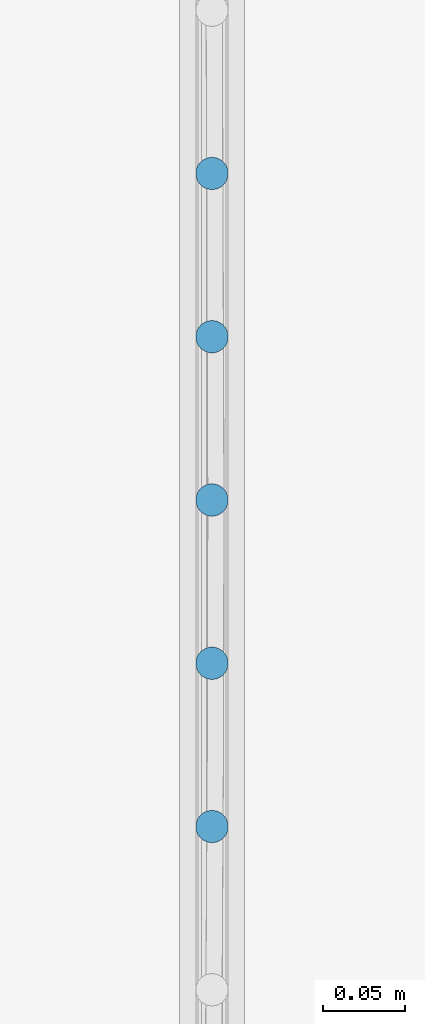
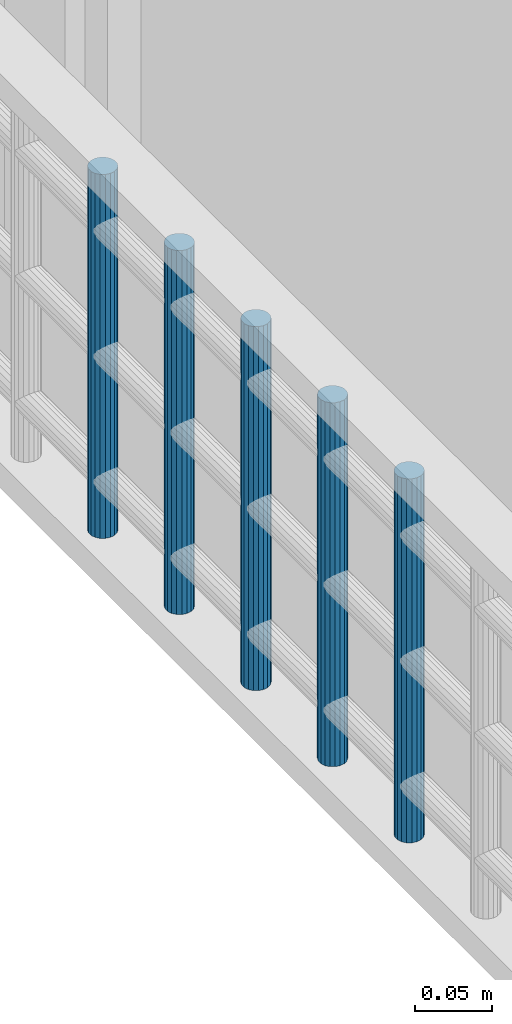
# One storey, part 49 of 133: 5 members, 1 element without a shape of its own.
"""IFC2X3 building model written with IfcOpenShell, lengths in centimetres."""

from ifc_helpers import new_model, entity, si_unit, converted_unit, direction, frame, origin, origin_with_axes, place, context, subcontext, project, spatial, faceted_brep, material, type_object, element, aggregate, save


model = new_model("IFC2X3")

# Units and contexts
model_context = context("Model", 3, precision=0.0001, world=origin(), true_north=direction((0.225632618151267, 0.974212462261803, 0.0)))
body_context = subcontext(model_context, "Body", "Model", "MODEL_VIEW")
ifc_project = project(units=[si_unit("LENGTHUNIT", "METRE", prefix="CENTI"), si_unit("AREAUNIT", "SQUARE_METRE", prefix="CENTI"), si_unit("VOLUMEUNIT", "CUBIC_METRE", prefix="CENTI"), converted_unit("PLANEANGLEUNIT", "DEGREE", entity("IfcRatioMeasure", 0.0174532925), si_unit("PLANEANGLEUNIT", "RADIAN"), dimensions=[0, 0, 0, 0, 0, 0, 0])], contexts=[model_context])

# Site, building, storey
site_placement = place(None, origin_with_axes())
site = spatial("IfcSite", under=ifc_project, at=site_placement, Name="Default Site", CompositionType="ELEMENT")
building_placement = place(site_placement, origin_with_axes())
building = spatial("IfcBuilding", under=site, at=building_placement, Name="Default Building", CompositionType="ELEMENT")
storey_placement = place(building_placement, frame((0.0, 0.0, -291.400371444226), z_axis=(0.0, 0.0, 1.0), x_axis=(1.0, 0.0, 0.0)))
storey = spatial("IfcBuildingStorey", under=building, at=storey_placement, Name="Rez-de-Jardin", CompositionType="ELEMENT", Elevation=-291.400371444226)

# Assembly, members
building_element_proxy_type = type_object("IfcBuildingElementProxyType", Name="Type Object", PredefinedType="NOTDEFINED")
assembly_placement = place(storey_placement, frame((1053.90827276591, -19.9208693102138, 18.0), z_axis=(0.0, 0.0, 1.0), x_axis=(-1.22124532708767e-15, -1.0, 0.0)))
assembly = element("IfcElementAssembly", 1, at=assembly_placement, inside=storey, type_object=building_element_proxy_type, Name="Panneau 73504", ObjectType="Precast panel", PredefinedType="USERDEFINED")
ifc_material = material(Name="Beige")
member_1_placement = place(assembly_placement, frame((55.9396922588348, 0.3420201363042, 31.0000002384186), z_axis=(0.0, 0.0, 1.0), x_axis=(0.499995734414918, -0.866027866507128, 0.0)))
member_1 = element("IfcMember", 2, at=member_1_placement, material=ifc_material, Name="4294966786", context=body_context, shape_type="Brep", body=[
    faceted_brep([(8.32667268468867e-14, -2.77555756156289e-14, 4.44089209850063e-14), (-0.347295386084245, -2.77555756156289e-14, 4.44089209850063e-14), (-0.673647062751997, -0.118784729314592, 4.44089209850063e-14), (-0.93969117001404, -0.342025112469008, 4.44089209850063e-14), (-1.11333888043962, -0.642795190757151, 4.44089209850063e-14), (-1.17364232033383, -0.984811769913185, 4.44089209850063e-14), (-1.11333370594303, -1.32683238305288, 4.44089209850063e-14), (-0.939683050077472, -1.62759729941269, 4.44089209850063e-14), (-0.673637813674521, -1.85083429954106, 4.44089209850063e-14), (-0.347285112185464, -1.9696145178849, 4.44089209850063e-14), (1.02738988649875e-05, -1.9696145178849, 4.44089209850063e-14), (0.326361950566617, -1.85082978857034, 4.44089209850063e-14), (0.592403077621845, -1.62759456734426, 4.44089209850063e-14), (0.766050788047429, -1.32682448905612, 4.44089209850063e-14), (0.826357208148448, -0.984802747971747, 4.44089209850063e-14), (0.766048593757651, -0.642782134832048, 4.44089209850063e-14), (0.592397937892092, -0.34201721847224, 4.44089209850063e-14), (0.326352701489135, -0.118780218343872, 4.44089209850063e-14), (0.326352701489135, -0.118780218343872, -29.000000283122), (0.592397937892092, -0.34201721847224, -29.000000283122), (0.766048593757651, -0.642782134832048, -29.000000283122), (0.826357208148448, -0.984802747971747, -29.000000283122), (0.766050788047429, -1.32682448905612, -29.000000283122), (0.592403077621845, -1.62759456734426, -29.000000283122), (0.326361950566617, -1.85082978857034, -29.000000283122), (1.02738988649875e-05, -1.9696145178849, -29.000000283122), (-0.347285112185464, -1.9696145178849, -29.000000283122), (-0.673637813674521, -1.85083429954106, -29.000000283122), (-0.939683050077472, -1.62759729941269, -29.000000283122), (-1.11333370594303, -1.32683238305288, -29.000000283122), (-1.17364232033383, -0.984811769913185, -29.000000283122), (-1.11333888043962, -0.642795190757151, -29.000000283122), (-0.93969117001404, -0.342025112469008, -29.000000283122), (-0.673647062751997, -0.118784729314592, -29.000000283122), (-0.347295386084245, -2.77555756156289e-14, -29.000000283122), (8.32667268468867e-14, -2.77555756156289e-14, -29.000000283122), (0.592398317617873, -0.342016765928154, 4.44089209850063e-14), (0.592398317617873, -0.342016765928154, -29.000000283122), (0.766047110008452, -0.642782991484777, 4.44089209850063e-14), (0.766047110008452, -0.642782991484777, -29.000000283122), (0.826357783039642, -0.984802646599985, 4.44089209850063e-14), (0.826357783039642, -0.984802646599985, -29.000000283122), (0.766051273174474, -1.32682457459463, 4.44089209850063e-14), (0.766051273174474, -1.32682457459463, -29.000000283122), (0.592403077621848, -1.62759456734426, 4.44089209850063e-14), (0.592403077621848, -1.62759456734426, -29.000000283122), (0.326362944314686, -1.85083097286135, 4.44089209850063e-14), (0.326362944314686, -1.85083097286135, -29.000000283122), (1.00742383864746e-05, -1.96961396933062, 4.44089209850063e-14), (1.00742383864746e-05, -1.96961396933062, -29.000000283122), (-0.347285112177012, -1.96961623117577, 4.44089209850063e-14), (-0.347285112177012, -1.96961623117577, -29.000000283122), (-0.673637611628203, -1.85083374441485, 4.44089209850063e-14), (-0.673637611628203, -1.85083374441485, -29.000000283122), (-0.939683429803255, -1.62759775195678, 4.44089209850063e-14), (-0.939683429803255, -1.62759775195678, -29.000000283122), (-1.11333222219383, -1.32683152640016, 4.44089209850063e-14), (-1.11333222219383, -1.32683152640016, -29.000000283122), (-1.17364289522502, -0.984811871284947, 4.44089209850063e-14), (-1.17364289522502, -0.984811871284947, -29.000000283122), (-1.11333735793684, -0.642795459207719, 4.44089209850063e-14), (-1.11333735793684, -0.642795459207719, -29.000000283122), (-0.939691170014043, -0.342025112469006, 4.44089209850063e-14), (-0.939691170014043, -0.342025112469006, -29.000000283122), (-0.673646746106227, -0.11878510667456, 4.44089209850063e-14), (-0.673646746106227, -0.11878510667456, -29.000000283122), (-0.347295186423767, -5.48554316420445e-07, 4.44089209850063e-14), (-0.347295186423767, -5.48554316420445e-07, -29.000000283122), (-8.36880521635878e-12, 1.71329083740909e-06, 4.44089209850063e-14), (-8.36880521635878e-12, 1.71329083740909e-06, -29.000000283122), (0.326352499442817, -0.118780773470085, 4.44089209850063e-14), (0.326352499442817, -0.118780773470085, -29.000000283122)], [[[0, 1, 2, 3, 4, 5, 6, 7, 8, 9, 10, 11, 12, 13, 14, 15, 16, 17]], [[18, 19, 20, 21, 22, 23, 24, 25, 26, 27, 28, 29, 30, 31, 32, 33, 34, 35]], [[17, 36, 37, 18]], [[16, 38, 39, 19]], [[15, 40, 41, 20]], [[14, 42, 43, 21]], [[13, 44, 45, 22]], [[12, 46, 47, 23]], [[11, 48, 49, 24]], [[10, 50, 51, 25]], [[9, 52, 53, 26]], [[8, 54, 55, 27]], [[7, 56, 57, 28]], [[6, 58, 59, 29]], [[5, 60, 61, 30]], [[4, 62, 63, 31]], [[3, 64, 65, 32]], [[2, 66, 67, 33]], [[1, 68, 69, 34]], [[0, 70, 71, 35]]]),
])
member_2_placement = place(assembly_placement, frame((65.9396946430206, 0.3420201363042, 31.0000002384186), z_axis=(0.0, 0.0, 1.0), x_axis=(0.500008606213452, -0.866020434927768, 0.0)))
member_2 = element("IfcMember", 3, at=member_2_placement, material=ifc_material, Name="4294966785", context=body_context, shape_type="Brep", body=[
    faceted_brep([(2.72004641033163e-13, -8.88178419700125e-14, 3.88578058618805e-14), (-0.347298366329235, -8.88178419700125e-14, 3.88578058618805e-14), (-0.673651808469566, -0.118779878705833, 3.88578058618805e-14), (-0.939696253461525, -0.342011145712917, 3.88578058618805e-14), (-1.11334843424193, -0.642778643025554, 3.88578058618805e-14), (-1.17365993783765, -0.984799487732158, 3.88578058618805e-14), (-1.1133564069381, -1.32682099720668, 3.88578058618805e-14), (-0.939710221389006, -1.62758849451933, 3.88578058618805e-14), (-0.673668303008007, -1.85082944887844, 3.88578058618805e-14), (-0.347317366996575, -1.96961451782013, 3.88578058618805e-14), (-2.1980950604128e-05, -1.96961967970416, 3.88578058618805e-14), (0.326331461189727, -1.85083980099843, 3.88578058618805e-14), (0.592378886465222, -1.6276033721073, 3.88578058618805e-14), (0.766031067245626, -1.32683587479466, 3.88578058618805e-14), (0.826339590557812, -0.984820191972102, 3.88578058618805e-14), (0.766036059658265, -0.64279868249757, 3.88578058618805e-14), (0.592392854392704, -0.34202602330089, 3.88578058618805e-14), (0.326350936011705, -0.118785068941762, 3.88578058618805e-14), (0.326350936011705, -0.118785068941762, -29.000000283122), (0.592392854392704, -0.34202602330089, -29.000000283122), (0.766036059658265, -0.64279868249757, -29.000000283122), (0.826339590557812, -0.984820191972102, -29.000000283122), (0.766031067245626, -1.32683587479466, -29.000000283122), (0.592378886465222, -1.6276033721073, -29.000000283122), (0.326331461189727, -1.85083980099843, -29.000000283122), (-2.1980950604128e-05, -1.96961967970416, -29.000000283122), (-0.347317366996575, -1.96961451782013, -29.000000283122), (-0.673668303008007, -1.85082944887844, -29.000000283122), (-0.939710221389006, -1.62758849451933, -29.000000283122), (-1.1133564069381, -1.32682099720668, -29.000000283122), (-1.17365993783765, -0.984799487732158, -29.000000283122), (-1.11334843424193, -0.642778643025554, -29.000000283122), (-0.939696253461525, -0.342011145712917, -29.000000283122), (-0.673651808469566, -0.118779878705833, -29.000000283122), (-0.347298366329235, -8.88178419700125e-14, -29.000000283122), (2.72004641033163e-13, -8.88178419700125e-14, -29.000000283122), (0.592393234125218, -0.34202557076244, 3.88578058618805e-14), (0.592393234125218, -0.34202557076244, -29.000000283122), (0.766039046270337, -0.64279695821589, 3.88578058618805e-14), (0.766039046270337, -0.64279695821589, -29.000000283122), (0.826340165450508, -0.984820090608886, 3.88578058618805e-14), (0.826340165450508, -0.984820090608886, -29.000000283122), (0.766029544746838, -1.32683560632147, 3.88578058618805e-14), (0.766029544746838, -1.32683560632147, -29.000000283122), (0.592378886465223, -1.6276033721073, 3.88578058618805e-14), (0.592378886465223, -1.6276033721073, -29.000000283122), (0.326331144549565, -1.85083942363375, 3.88578058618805e-14), (0.326331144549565, -1.85083942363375, -29.000000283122), (-2.21806029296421e-05, -1.9696191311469, 3.88578058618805e-14), (-2.21806029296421e-05, -1.9696191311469, -29.000000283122), (-0.347317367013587, -1.96961623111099, 3.88578058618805e-14), (-0.347317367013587, -1.96961623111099, -29.000000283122), (-0.673668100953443, -1.85082889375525, 3.88578058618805e-14), (-0.673668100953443, -1.85082889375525, -29.000000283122), (-0.939710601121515, -1.62758894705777, 3.88578058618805e-14), (-0.939710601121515, -1.62758894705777, -29.000000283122), (-1.11335492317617, -1.326820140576, 3.88578058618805e-14), (-1.11335492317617, -1.326820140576, -29.000000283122), (-1.17366051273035, -0.984799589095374, 3.88578058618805e-14), (-1.17366051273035, -0.984799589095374, -29.000000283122), (-1.11334891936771, -0.642778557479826, 3.88578058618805e-14), (-1.11334891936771, -0.642778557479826, -29.000000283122), (-0.939696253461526, -0.342011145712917, 3.88578058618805e-14), (-0.939696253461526, -0.342011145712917, -29.000000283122), (-0.673652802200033, -0.11877869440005, 3.88578058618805e-14), (-0.673652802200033, -0.11877869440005, -29.000000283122), (-0.347298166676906, -5.48557355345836e-07, 3.88578058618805e-14), (-0.347298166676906, -5.48557355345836e-07, -29.000000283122), (-3.39723228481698e-11, -3.44862285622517e-06, 3.88578058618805e-14), (-3.39723228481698e-11, -3.44862285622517e-06, -29.000000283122), (0.326350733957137, -0.118785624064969, 3.88578058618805e-14), (0.326350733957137, -0.118785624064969, -29.000000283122)], [[[0, 1, 2, 3, 4, 5, 6, 7, 8, 9, 10, 11, 12, 13, 14, 15, 16, 17]], [[18, 19, 20, 21, 22, 23, 24, 25, 26, 27, 28, 29, 30, 31, 32, 33, 34, 35]], [[17, 36, 37, 18]], [[16, 38, 39, 19]], [[15, 40, 41, 20]], [[14, 42, 43, 21]], [[13, 44, 45, 22]], [[12, 46, 47, 23]], [[11, 48, 49, 24]], [[10, 50, 51, 25]], [[9, 52, 53, 26]], [[8, 54, 55, 27]], [[7, 56, 57, 28]], [[6, 58, 59, 29]], [[5, 60, 61, 30]], [[4, 62, 63, 31]], [[3, 64, 65, 32]], [[2, 66, 67, 33]], [[1, 68, 69, 34]], [[0, 70, 71, 35]]]),
])
member_3_placement = place(assembly_placement, frame((75.9396910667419, 0.3420201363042, 31.0000002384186), z_axis=(0.0, 0.0, 1.0), x_axis=(0.499995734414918, -0.866027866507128, 0.0)))
member_3 = element("IfcMember", 4, at=member_3_placement, material=ifc_material, Name="4294966784", context=body_context, shape_type="Brep", body=[
    faceted_brep([(7.7715611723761e-14, 6.66133814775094e-14, 4.44089209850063e-14), (-0.347295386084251, 5.55111512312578e-14, 4.44089209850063e-14), (-0.673647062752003, -0.118784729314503, 4.44089209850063e-14), (-0.939691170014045, -0.342025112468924, 4.44089209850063e-14), (-1.11333590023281, -0.642790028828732, 4.44089209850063e-14), (-1.17364232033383, -0.984811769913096, 4.44089209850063e-14), (-1.11333370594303, -1.3268323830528, 4.44089209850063e-14), (-0.939683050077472, -1.6275972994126, 4.44089209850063e-14), (-0.673637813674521, -1.85083429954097, 4.44089209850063e-14), (-0.347285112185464, -1.96961451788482, 4.44089209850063e-14), (1.02738988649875e-05, -1.96961451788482, 4.44089209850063e-14), (0.326361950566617, -1.85082978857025, 4.44089209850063e-14), (0.592406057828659, -1.62758940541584, 4.44089209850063e-14), (0.766050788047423, -1.32682448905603, 4.44089209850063e-14), (0.826357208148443, -0.984802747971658, 4.44089209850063e-14), (0.766048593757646, -0.642782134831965, 4.44089209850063e-14), (0.592397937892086, -0.342017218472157, 4.44089209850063e-14), (0.326352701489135, -0.118780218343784, 4.44089209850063e-14), (0.326352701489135, -0.118780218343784, -29.000000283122), (0.592397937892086, -0.342017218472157, -29.000000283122), (0.766048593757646, -0.642782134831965, -29.000000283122), (0.826357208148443, -0.984802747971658, -29.000000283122), (0.766050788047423, -1.32682448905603, -29.000000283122), (0.592406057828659, -1.62758940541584, -29.000000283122), (0.326361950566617, -1.85082978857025, -29.000000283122), (1.02738988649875e-05, -1.96961451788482, -29.000000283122), (-0.347285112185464, -1.96961451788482, -29.000000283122), (-0.673637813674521, -1.85083429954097, -29.000000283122), (-0.939683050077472, -1.6275972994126, -29.000000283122), (-1.11333370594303, -1.3268323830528, -29.000000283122), (-1.17364232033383, -0.984811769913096, -29.000000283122), (-1.11333590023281, -0.642790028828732, -29.000000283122), (-0.939691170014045, -0.342025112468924, -29.000000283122), (-0.673647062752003, -0.118784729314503, -29.000000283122), (-0.347295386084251, 5.55111512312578e-14, -29.000000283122), (7.7715611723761e-14, 6.66133814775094e-14, -29.000000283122), (0.592398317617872, -0.342016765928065, 4.44089209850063e-14), (0.592398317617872, -0.342016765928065, -29.000000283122), (0.766047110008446, -0.642782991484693, 4.44089209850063e-14), (0.766047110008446, -0.642782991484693, -29.000000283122), (0.826357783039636, -0.984802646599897, 4.44089209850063e-14), (0.826357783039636, -0.984802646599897, -29.000000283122), (0.766051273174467, -1.32682457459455, 4.44089209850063e-14), (0.766051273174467, -1.32682457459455, -29.000000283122), (0.592406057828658, -1.62758940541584, 4.44089209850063e-14), (0.592406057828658, -1.62758940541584, -29.000000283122), (0.32636163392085, -1.85082941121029, 4.44089209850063e-14), (0.32636163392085, -1.85082941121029, -29.000000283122), (1.00742383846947e-05, -1.96961396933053, 4.44089209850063e-14), (1.00742383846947e-05, -1.96961396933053, -29.000000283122), (-0.347285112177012, -1.96961623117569, 4.44089209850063e-14), (-0.347285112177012, -1.96961623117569, -29.000000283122), (-0.673637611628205, -1.85083374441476, 4.44089209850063e-14), (-0.673637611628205, -1.85083374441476, -29.000000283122), (-0.939683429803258, -1.62759775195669, 4.44089209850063e-14), (-0.939683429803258, -1.62759775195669, -29.000000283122), (-1.11333222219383, -1.32683152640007, 4.44089209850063e-14), (-1.11333222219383, -1.32683152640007, -29.000000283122), (-1.17364289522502, -0.984811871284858, 4.44089209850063e-14), (-1.17364289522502, -0.984811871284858, -29.000000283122), (-1.11333638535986, -0.642789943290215, 4.44089209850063e-14), (-1.11333638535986, -0.642789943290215, -29.000000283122), (-0.939691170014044, -0.342025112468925, 4.44089209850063e-14), (-0.939691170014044, -0.342025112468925, -29.000000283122), (-0.67364674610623, -0.118785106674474, 4.44089209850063e-14), (-0.67364674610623, -0.118785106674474, -29.000000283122), (-0.347295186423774, -5.48554228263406e-07, 4.44089209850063e-14), (-0.347295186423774, -5.48554228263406e-07, -29.000000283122), (-8.37435627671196e-12, 1.71329092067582e-06, 4.44089209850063e-14), (-8.37435627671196e-12, 1.71329092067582e-06, -29.000000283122), (0.326352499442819, -0.118780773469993, 4.44089209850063e-14), (0.326352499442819, -0.118780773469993, -29.000000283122)], [[[0, 1, 2, 3, 4, 5, 6, 7, 8, 9, 10, 11, 12, 13, 14, 15, 16, 17]], [[18, 19, 20, 21, 22, 23, 24, 25, 26, 27, 28, 29, 30, 31, 32, 33, 34, 35]], [[17, 36, 37, 18]], [[16, 38, 39, 19]], [[15, 40, 41, 20]], [[14, 42, 43, 21]], [[13, 44, 45, 22]], [[12, 46, 47, 23]], [[11, 48, 49, 24]], [[10, 50, 51, 25]], [[9, 52, 53, 26]], [[8, 54, 55, 27]], [[7, 56, 57, 28]], [[6, 58, 59, 29]], [[5, 60, 61, 30]], [[4, 62, 63, 31]], [[3, 64, 65, 32]], [[2, 66, 67, 33]], [[1, 68, 69, 34]], [[0, 70, 71, 35]]]),
])
member_4_placement = place(assembly_placement, frame((85.9396934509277, 0.3420201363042, 31.0000002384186), z_axis=(0.0, 0.0, 1.0), x_axis=(0.499995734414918, -0.866027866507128, 0.0)))
member_4 = element("IfcMember", 5, at=member_4_placement, material=ifc_material, Name="4294966783", context=body_context, shape_type="Brep", body=[
    faceted_brep([(-2.22044604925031e-14, 1.22124532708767e-13, 4.44089209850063e-14), (-0.347295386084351, 1.11022302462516e-13, 4.44089209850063e-14), (-0.673647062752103, -0.118784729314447, 4.44089209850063e-14), (-0.939691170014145, -0.342025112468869, 4.44089209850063e-14), (-1.11333888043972, -0.642795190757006, 4.44089209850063e-14), (-1.17364232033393, -0.984811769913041, 4.44089209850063e-14), (-1.11333370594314, -1.32683238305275, 4.44089209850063e-14), (-0.939686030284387, -1.62760246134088, 4.44089209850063e-14), (-0.673640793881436, -1.85083946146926, 4.44089209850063e-14), (-0.347288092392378, -1.96961967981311, 4.44089209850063e-14), (1.02738987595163e-05, -1.96961451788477, 4.44089209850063e-14), (0.326361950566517, -1.8508297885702, 4.44089209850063e-14), (0.592403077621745, -1.62759456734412, 4.44089209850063e-14), (0.766050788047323, -1.32682448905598, 4.44089209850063e-14), (0.826357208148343, -0.984802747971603, 4.44089209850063e-14), (0.766048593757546, -0.64278213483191, 4.44089209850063e-14), (0.592397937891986, -0.342017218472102, 4.44089209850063e-14), (0.326352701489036, -0.118780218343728, 4.44089209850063e-14), (0.326352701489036, -0.118780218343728, -29.000000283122), (0.592397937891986, -0.342017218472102, -29.000000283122), (0.766048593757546, -0.64278213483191, -29.000000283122), (0.826357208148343, -0.984802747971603, -29.000000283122), (0.766050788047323, -1.32682448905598, -29.000000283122), (0.592403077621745, -1.62759456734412, -29.000000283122), (0.326361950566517, -1.8508297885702, -29.000000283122), (1.02738987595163e-05, -1.96961451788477, -29.000000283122), (-0.347288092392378, -1.96961967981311, -29.000000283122), (-0.673640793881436, -1.85083946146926, -29.000000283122), (-0.939686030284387, -1.62760246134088, -29.000000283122), (-1.11333370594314, -1.32683238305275, -29.000000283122), (-1.17364232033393, -0.984811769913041, -29.000000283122), (-1.11333888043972, -0.642795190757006, -29.000000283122), (-0.939691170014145, -0.342025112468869, -29.000000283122), (-0.673647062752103, -0.118784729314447, -29.000000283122), (-0.347295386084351, 1.11022302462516e-13, -29.000000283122), (-2.22044604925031e-14, 1.22124532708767e-13, -29.000000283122), (0.592398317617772, -0.34201676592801, 4.44089209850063e-14), (0.592398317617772, -0.34201676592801, -29.000000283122), (0.766047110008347, -0.642782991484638, 4.44089209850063e-14), (0.766047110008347, -0.642782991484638, -29.000000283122), (0.826357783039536, -0.984802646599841, 4.44089209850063e-14), (0.826357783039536, -0.984802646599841, -29.000000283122), (0.766051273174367, -1.3268245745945, 4.44089209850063e-14), (0.766051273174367, -1.3268245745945, -29.000000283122), (0.592403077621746, -1.62759456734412, 4.44089209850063e-14), (0.592403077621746, -1.62759456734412, -29.000000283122), (0.326362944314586, -1.85083097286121, 4.44089209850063e-14), (0.326362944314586, -1.85083097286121, -29.000000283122), (1.00742382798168e-05, -1.96961396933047, 4.44089209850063e-14), (1.00742382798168e-05, -1.96961396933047, -29.000000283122), (-0.347288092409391, -1.96961623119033, 4.44089209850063e-14), (-0.347288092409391, -1.96961623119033, -29.000000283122), (-0.673640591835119, -1.85083890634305, 4.44089209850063e-14), (-0.673640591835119, -1.85083890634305, -29.000000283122), (-0.939686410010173, -1.62760291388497, 4.44089209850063e-14), (-0.939686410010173, -1.62760291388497, -29.000000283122), (-1.11333669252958, -1.32683410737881, 4.44089209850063e-14), (-1.11333669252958, -1.32683410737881, -29.000000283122), (-1.17364289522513, -0.984811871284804, 4.44089209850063e-14), (-1.17364289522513, -0.984811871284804, -29.000000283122), (-1.11333735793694, -0.642795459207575, 4.44089209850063e-14), (-1.11333735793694, -0.642795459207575, -29.000000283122), (-0.939691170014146, -0.342025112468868, 4.44089209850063e-14), (-0.939691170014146, -0.342025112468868, -29.000000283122), (-0.67364674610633, -0.118785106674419, 4.44089209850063e-14), (-0.67364674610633, -0.118785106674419, -29.000000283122), (-0.347295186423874, -5.48554172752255e-07, 4.44089209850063e-14), (-0.347295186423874, -5.48554172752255e-07, -29.000000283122), (-8.47427634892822e-12, 1.71329097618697e-06, 4.44089209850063e-14), (-8.47427634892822e-12, 1.71329097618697e-06, -29.000000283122), (0.326352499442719, -0.118780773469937, 4.44089209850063e-14), (0.326352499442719, -0.118780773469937, -29.000000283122)], [[[0, 1, 2, 3, 4, 5, 6, 7, 8, 9, 10, 11, 12, 13, 14, 15, 16, 17]], [[18, 19, 20, 21, 22, 23, 24, 25, 26, 27, 28, 29, 30, 31, 32, 33, 34, 35]], [[17, 36, 37, 18]], [[16, 38, 39, 19]], [[15, 40, 41, 20]], [[14, 42, 43, 21]], [[13, 44, 45, 22]], [[12, 46, 47, 23]], [[11, 48, 49, 24]], [[10, 50, 51, 25]], [[9, 52, 53, 26]], [[8, 54, 55, 27]], [[7, 56, 57, 28]], [[6, 58, 59, 29]], [[5, 60, 61, 30]], [[4, 62, 63, 31]], [[3, 64, 65, 32]], [[2, 66, 67, 33]], [[1, 68, 69, 34]], [[0, 70, 71, 35]]]),
])
member_5_placement = place(assembly_placement, frame((95.939689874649, 0.3420201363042, 31.0000002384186), z_axis=(0.0, 0.0, 1.0), x_axis=(0.499995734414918, -0.866027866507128, 0.0)))
member_5 = element("IfcMember", 6, at=member_5_placement, material=ifc_material, Name="4294966782", context=body_context, shape_type="Brep", body=[
    faceted_brep([(7.7715611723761e-14, 5.55111512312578e-14, 4.44089209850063e-14), (-0.347295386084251, 5.55111512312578e-14, 4.44089209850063e-14), (-0.673647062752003, -0.118784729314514, 4.44089209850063e-14), (-0.939688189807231, -0.342019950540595, 4.44089209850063e-14), (-1.11333590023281, -0.642790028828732, 4.44089209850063e-14), (-1.17364232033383, -0.984811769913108, 4.44089209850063e-14), (-1.11333370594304, -1.3268323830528, 4.44089209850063e-14), (-0.939683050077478, -1.62759729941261, 4.44089209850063e-14), (-0.673637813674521, -1.85083429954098, 4.44089209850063e-14), (-0.347285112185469, -1.96961451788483, 4.44089209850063e-14), (1.02738988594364e-05, -1.96961451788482, 4.44089209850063e-14), (0.326361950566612, -1.85082978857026, 4.44089209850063e-14), (0.592406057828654, -1.62758940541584, 4.44089209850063e-14), (0.766053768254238, -1.3268193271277, 4.44089209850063e-14), (0.826357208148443, -0.984802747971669, 4.44089209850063e-14), (0.766048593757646, -0.642782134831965, 4.44089209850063e-14), (0.592397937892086, -0.342017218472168, 4.44089209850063e-14), (0.326352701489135, -0.118780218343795, 4.44089209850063e-14), (0.326352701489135, -0.118780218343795, -29.000000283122), (0.592397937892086, -0.342017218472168, -29.000000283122), (0.766048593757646, -0.642782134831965, -29.000000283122), (0.826357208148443, -0.984802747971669, -29.000000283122), (0.766053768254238, -1.3268193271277, -29.000000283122), (0.592406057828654, -1.62758940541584, -29.000000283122), (0.326361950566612, -1.85082978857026, -29.000000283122), (1.02738988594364e-05, -1.96961451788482, -29.000000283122), (-0.347285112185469, -1.96961451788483, -29.000000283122), (-0.673637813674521, -1.85083429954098, -29.000000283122), (-0.939683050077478, -1.62759729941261, -29.000000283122), (-1.11333370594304, -1.3268323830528, -29.000000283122), (-1.17364232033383, -0.984811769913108, -29.000000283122), (-1.11333590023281, -0.642790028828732, -29.000000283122), (-0.939688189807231, -0.342019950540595, -29.000000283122), (-0.673647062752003, -0.118784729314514, -29.000000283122), (-0.347295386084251, 5.55111512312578e-14, -29.000000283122), (7.7715611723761e-14, 5.55111512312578e-14, -29.000000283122), (0.592398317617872, -0.342016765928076, 4.44089209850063e-14), (0.592398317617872, -0.342016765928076, -29.000000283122), (0.766047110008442, -0.642782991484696, 4.44089209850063e-14), (0.766047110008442, -0.642782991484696, -29.000000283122), (0.826357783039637, -0.984802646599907, 4.44089209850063e-14), (0.826357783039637, -0.984802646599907, -29.000000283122), (0.766052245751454, -1.32681905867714, 4.44089209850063e-14), (0.766052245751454, -1.32681905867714, -29.000000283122), (0.592406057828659, -1.62758940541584, 4.44089209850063e-14), (0.592406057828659, -1.62758940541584, -29.000000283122), (0.326361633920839, -1.85082941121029, 4.44089209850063e-14), (0.326361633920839, -1.85082941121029, -29.000000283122), (1.00742383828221e-05, -1.96961396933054, 4.44089209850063e-14), (1.00742383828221e-05, -1.96961396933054, -29.000000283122), (-0.347285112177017, -1.96961623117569, 4.44089209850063e-14), (-0.347285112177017, -1.96961623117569, -29.000000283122), (-0.673637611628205, -1.85083374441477, 4.44089209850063e-14), (-0.673637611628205, -1.85083374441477, -29.000000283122), (-0.939683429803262, -1.6275977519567, 4.44089209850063e-14), (-0.939683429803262, -1.6275977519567, -29.000000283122), (-1.11333222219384, -1.32683152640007, 4.44089209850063e-14), (-1.11333222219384, -1.32683152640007, -29.000000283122), (-1.17364289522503, -0.984811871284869, 4.44089209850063e-14), (-1.17364289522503, -0.984811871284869, -29.000000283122), (-1.11333638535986, -0.642789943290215, 4.44089209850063e-14), (-1.11333638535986, -0.642789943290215, -29.000000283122), (-0.939688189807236, -0.342019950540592, 4.44089209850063e-14), (-0.939688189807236, -0.342019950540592, -29.000000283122), (-0.673648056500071, -0.118783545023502, 4.44089209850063e-14), (-0.673648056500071, -0.118783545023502, -29.000000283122), (-0.347295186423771, -5.48554238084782e-07, 4.44089209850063e-14), (-0.347295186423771, -5.48554238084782e-07, -29.000000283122), (-8.3743563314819e-12, 1.71329092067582e-06, 4.44089209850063e-14), (-8.3743563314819e-12, 1.71329092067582e-06, -29.000000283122), (0.326352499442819, -0.118780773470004, 4.44089209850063e-14), (0.326352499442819, -0.118780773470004, -29.000000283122)], [[[0, 1, 2, 3, 4, 5, 6, 7, 8, 9, 10, 11, 12, 13, 14, 15, 16, 17]], [[18, 19, 20, 21, 22, 23, 24, 25, 26, 27, 28, 29, 30, 31, 32, 33, 34, 35]], [[17, 36, 37, 18]], [[16, 38, 39, 19]], [[15, 40, 41, 20]], [[14, 42, 43, 21]], [[13, 44, 45, 22]], [[12, 46, 47, 23]], [[11, 48, 49, 24]], [[10, 50, 51, 25]], [[9, 52, 53, 26]], [[8, 54, 55, 27]], [[7, 56, 57, 28]], [[6, 58, 59, 29]], [[5, 60, 61, 30]], [[4, 62, 63, 31]], [[3, 64, 65, 32]], [[2, 66, 67, 33]], [[1, 68, 69, 34]], [[0, 70, 71, 35]]]),
])
aggregate(assembly, [member_1, member_2, member_3, member_4, member_5])

save(model, "model.ifc")
